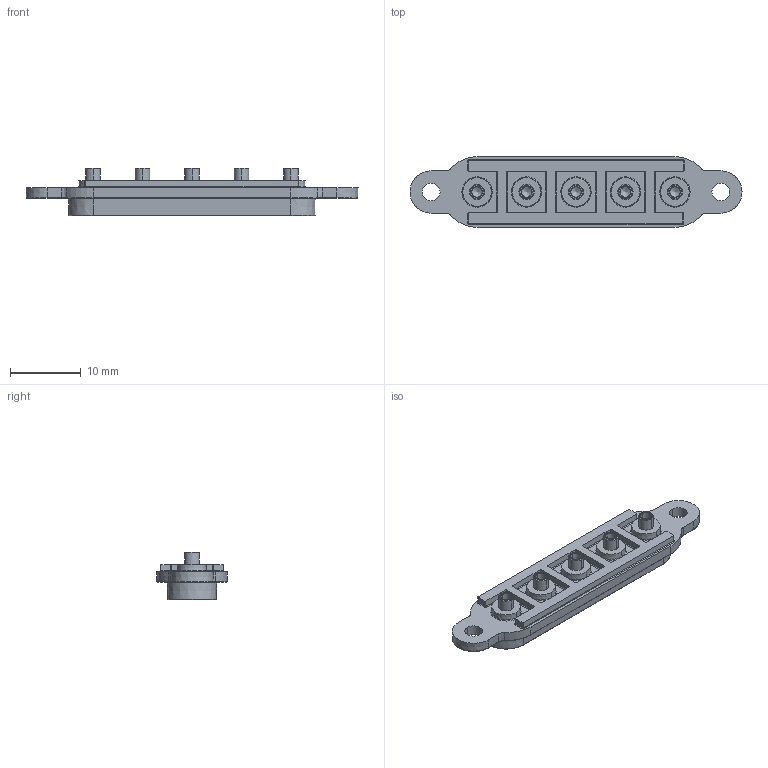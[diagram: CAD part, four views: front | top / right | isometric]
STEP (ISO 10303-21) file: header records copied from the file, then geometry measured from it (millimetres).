
FILE_DESCRIPTION (( 'STEP AP214' ), '1' );
FILE_NAME ('Swift-Dock-5-L.STEP', '2021-08-06T15:46:01', ( '' ), ( '' ), 'SwSTEP 2.0', 'SolidWorks 2021', '' );
FILE_SCHEMA (( 'AUTOMOTIVE_DESIGN' ));
Length unit declared in the file: millimetre
Products named in the file (4): land body_5 hole; Coda_IPP2S-A_contact land_11; Swift-Dock-5-L; SD5P_land Array_5way_NO PCB
Assembly tree (7 placements, depth 3):
  Swift-Dock-5-L
    SD5P_land Array_5way_NO PCB
      Coda_IPP2S-A_contact land_11  x5
      land body_5 hole
Bounding box: 47 x 10 x 6.76 mm (x, y, z)
Volume: 1356.9 mm3; surface area: 1909.1 mm2
Topology: 6 solids, 6 shells, 351 faces, 754 edges, 435 vertices
Faces by surface type: cylinder 112, cone 108, plane 69, bspline 62
Entity records: 10925 total; most frequent: CARTESIAN_POINT 2641, DIRECTION 1120, ORIENTED_EDGE 1120, EDGE_CURVE 560, AXIS2_PLACEMENT_3D 442, VERTEX_POINT 327, EDGE_LOOP 287, UNCERTAINTY_MEASURE_WITH_UNIT 263
